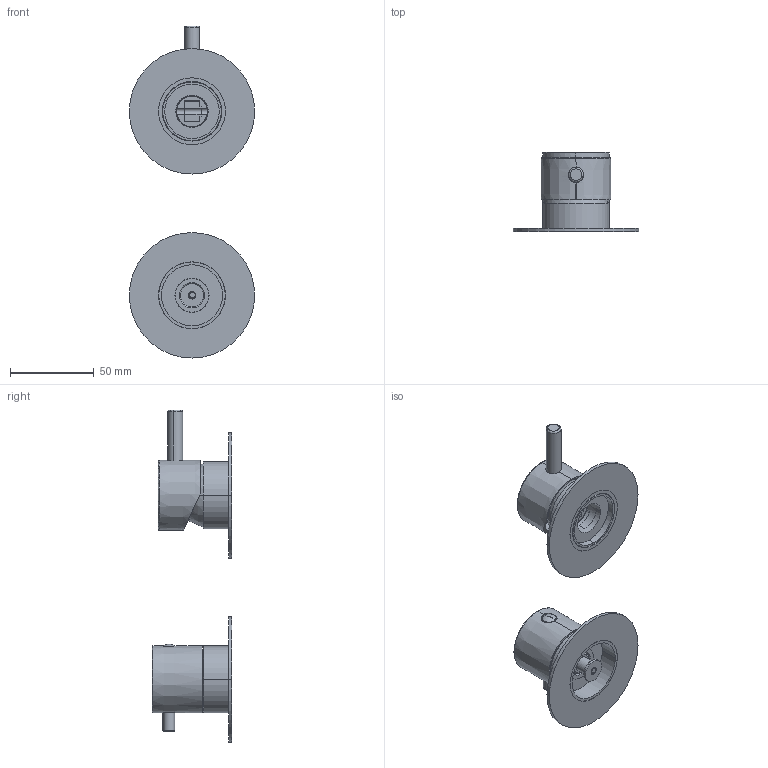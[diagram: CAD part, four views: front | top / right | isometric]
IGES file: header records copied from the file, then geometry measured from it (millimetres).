
Start section:  PTC IGES file: 12553v3_sw0001.igs
Global section: file name: 12553v3_sw0001.igs; native system: Creo Parametric by PTC Inc.; preprocessor: 2022014; author: volponeff; organization: Unknown; date: 20241010.092339; units: millimetre
Bounding box: 75 x 47.7 x 198.5 mm (x, y, z)
Surface area: 65139.4 mm2 (no closed solid volume)
Topology: 0 solids, 0 shells, 756 faces, 4172 edges, 4164 vertices
Faces by surface type: revolution 459, bspline 297
